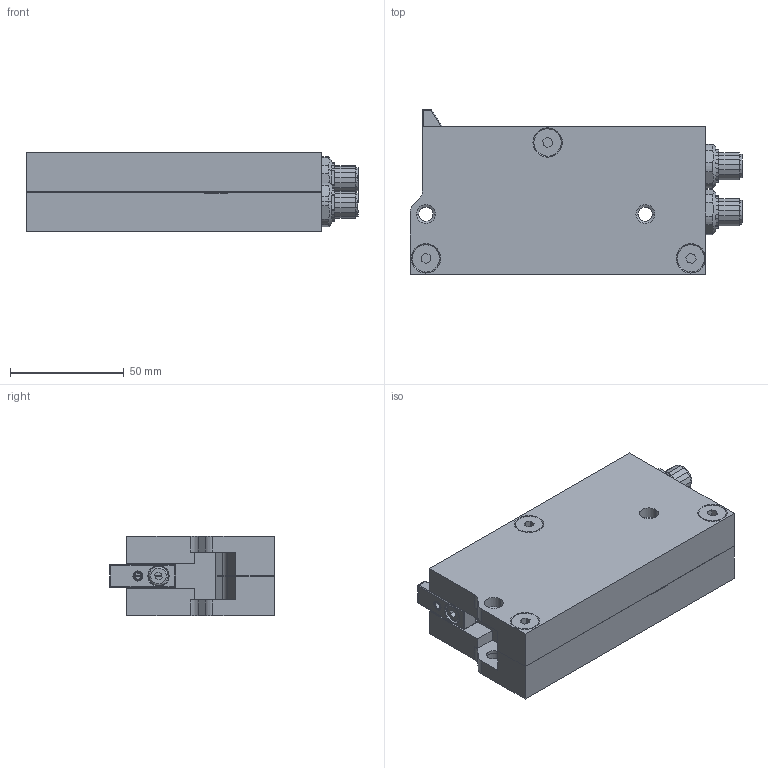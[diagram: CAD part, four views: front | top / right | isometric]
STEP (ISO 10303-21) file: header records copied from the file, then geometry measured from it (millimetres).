
FILE_DESCRIPTION (( 'STEP AP203' ), '1' );
FILE_NAME ('ELD-40-07-5A.STEP', '2020-01-10T10:08:22', ( '' ), ( '' ), 'SwSTEP 2.0', 'SolidWorks 2017', '' );
FILE_SCHEMA (( 'CONFIG_CONTROL_DESIGN' ));
Length unit declared in the file: millimetre
Products named in the file (2): ELD-40-07-5A
Bounding box: 146 x 72.5 x 35 mm (x, y, z)
Surface area: 48913.5 mm2 (no closed solid volume)
Topology: 0 solids, 41 shells, 424 faces, 1360 edges, 970 vertices
Faces by surface type: plane 291, cylinder 90, cone 26, torus 7, sphere 6, bspline 4
Entity records: 15511 total; most frequent: CARTESIAN_POINT 3512, DIRECTION 2507, ORIENTED_EDGE 2101, EDGE_CURVE 1354, VECTOR 1001, LINE 1001, VERTEX_POINT 970, AXIS2_PLACEMENT_3D 753
